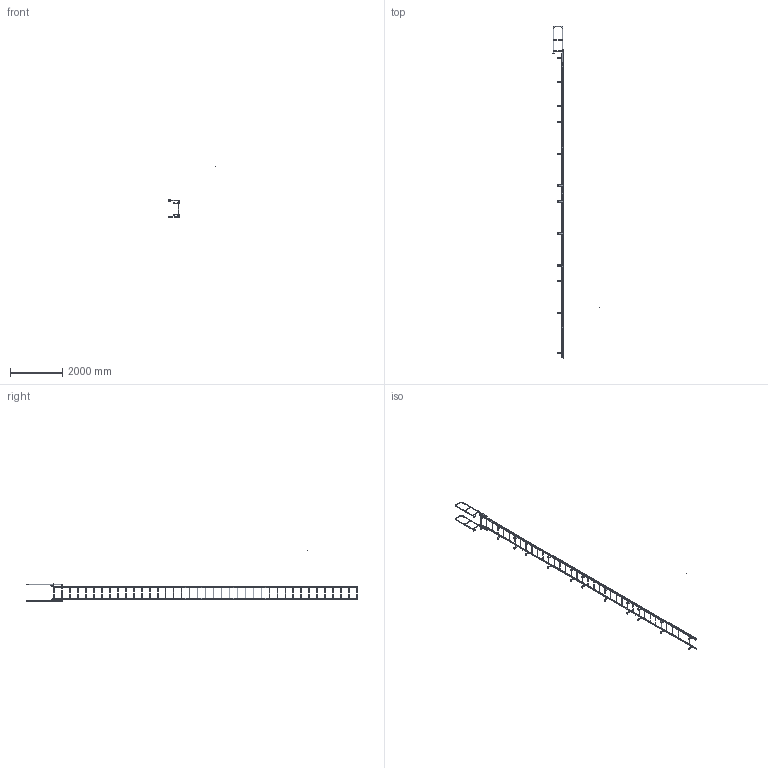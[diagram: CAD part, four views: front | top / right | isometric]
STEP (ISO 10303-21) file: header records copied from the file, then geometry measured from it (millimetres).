
FILE_DESCRIPTION(/* description */ (''),/* implementation_level */ '2;1');
FILE_NAME(/* name */ 'P:\MIKEL & KAREN\3570385 F39W SIMPLIFIED PART.stp',/* time_stamp */ '2018-07-02T16:18:56-04:00',/* author */ ('stephanie'),/* organization */ (''),/* preprocessor_version */ 'ST-DEVELOPER v16.1',/* originating_system */ 'Autodesk Inventor 2016',/* authorisation */ '');
FILE_SCHEMA (('AUTOMOTIVE_DESIGN { 1 0 10303 214 3 1 1 }'));
Length unit declared in the file: centimetre
Products named in the file (1): 3570385 F39W SIMPLIFIED PART
Bounding box: 1825.37 x 12696.83 x 1963.31 mm (x, y, z)
Volume: 21681678.3 mm3; surface area: 7285264.4 mm2
Topology: 48 solids, 48 shells, 782 faces, 2096 edges, 1382 vertices
Faces by surface type: plane 452, cylinder 322, torus 8
Full cylindrical faces by diameter (mm): 0.254 x1, 10.319 x4, 14.287 x30, 19.05 x39, 22.098 x10, 22.225 x78, 25.4 x10
Entity records: 24268 total; most frequent: CARTESIAN_POINT 4257, DIRECTION 4048, ORIENTED_EDGE 3616, EDGE_CURVE 1804, AXIS2_PLACEMENT_3D 1477, VERTEX_POINT 1270, EDGE_LOOP 1192, LINE 1094
